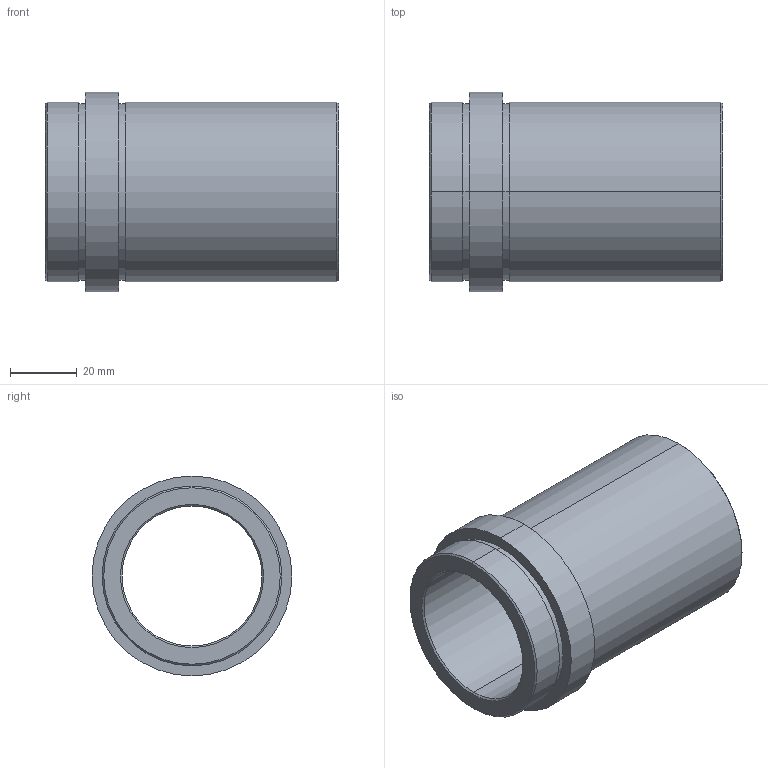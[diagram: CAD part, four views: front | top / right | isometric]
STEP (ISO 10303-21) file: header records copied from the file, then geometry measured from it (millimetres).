
FILE_DESCRIPTION( ( 'STEP AP203' ), '1' );
FILE_NAME( 'C:/Projects/D21 - 42x76.step', '2002-12-31T23:02:47', ( ' ' ), ( ' ' ), 'XStep 1.0', ' ', ' ' );
FILE_SCHEMA( ( 'CONFIG_CONTROL_DESIGN' ) );
Length unit declared in the file: metre
Products named in the file (1): 1
Bounding box: 88 x 60 x 60 mm (x, y, z)
Volume: 84581.1 mm3; surface area: 29759.6 mm2
Topology: 1 solids, 1 shells, 26 faces, 52 edges, 32 vertices
Faces by surface type: revolution 20, bspline 6
Entity records: 773 total; most frequent: CARTESIAN_POINT 169, DIRECTION 106, ORIENTED_EDGE 104, EDGE_CURVE 52, AXIS2_PLACEMENT_3D 33, EDGE_LOOP 32, VERTEX_POINT 32, CIRCLE 32
